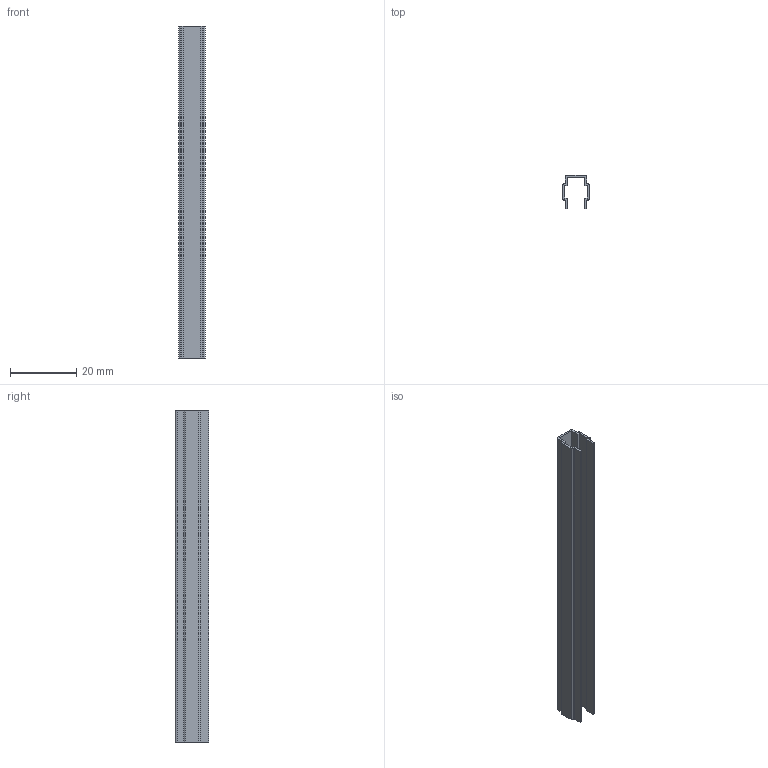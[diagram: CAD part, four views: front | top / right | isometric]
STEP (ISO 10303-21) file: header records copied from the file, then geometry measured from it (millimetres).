
FILE_DESCRIPTION(/* description */ ('Unknown'),/* implementation_level */ '2;1');
FILE_NAME(/* name */ 'GWH06',/* time_stamp */ '2026-09-29T14:36:51+08:00',/* author */ ('Unknown'),/* organization */ ('Unknown'),/* preprocessor_version */ 'ST-DEVELOPER v16.7',/* originating_system */ 'DEX',/* authorisation */ $);
FILE_SCHEMA (('AUTOMOTIVE_DESIGN {1 0 10303 214 3 1 1}'));
Length unit declared in the file: millimetre
Products named in the file (1): DCPE-6G
Bounding box: 8 x 10 x 100 mm (x, y, z)
Volume: 1677.8 mm3; surface area: 5724.8 mm2
Topology: 1 solids, 1 shells, 32 faces, 90 edges, 60 vertices
Faces by surface type: plane 26, cylinder 6
Entity records: 1281 total; most frequent: CARTESIAN_POINT 183, ORIENTED_EDGE 180, DIRECTION 168, EDGE_CURVE 90, LINE 78, VECTOR 78, VERTEX_POINT 60, AXIS2_PLACEMENT_3D 45
